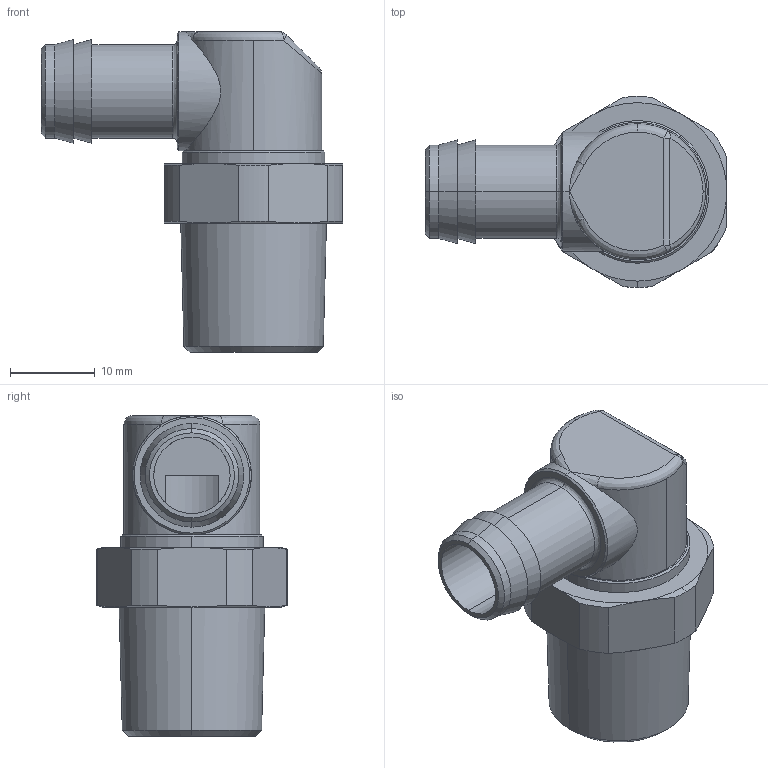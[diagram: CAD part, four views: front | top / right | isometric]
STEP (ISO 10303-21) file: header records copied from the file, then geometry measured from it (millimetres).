
FILE_DESCRIPTION(/* description */ (''),/* implementation_level */ '2;1');
FILE_NAME(/* name */ 'FIT_L10N38',/* time_stamp */ '2025-07-11T18:22:59+09:00',/* author */ (''),/* organization */ (''),/* preprocessor_version */ 'ST-DEVELOPER v19.2',/* originating_system */ 'Rhino 8.10',/* authorisation */ '');
FILE_SCHEMA (('CONFIG_CONTROL_DESIGN'));
Length unit declared in the file: millimetre
Products named in the file (1): Document
Bounding box: 35.5 x 22.48 x 37.7 mm (x, y, z)
Volume: 5878.4 mm3; surface area: 5342 mm2
Topology: 2 solids, 2 shells, 100 faces, 228 edges, 135 vertices
Faces by surface type: bspline 47, plane 27, cylinder 26
Entity records: 4400 total; most frequent: CARTESIAN_POINT 2435, ORIENTED_EDGE 448, DIRECTION 261, EDGE_CURVE 224, AXIS2_PLACEMENT_3D 157, VERTEX_POINT 131, EDGE_LOOP 107, TRIMMED_CURVE 101
